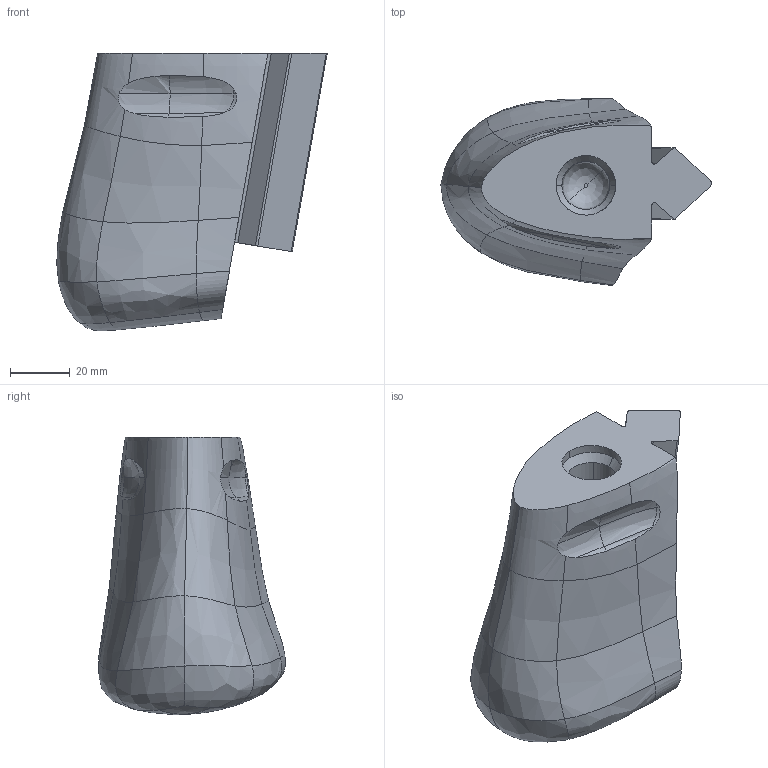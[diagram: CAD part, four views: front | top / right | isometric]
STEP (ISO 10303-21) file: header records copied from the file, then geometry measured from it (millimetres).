
FILE_DESCRIPTION(/* description */ (''),/* implementation_level */ '2;1');
FILE_NAME(/* name */ '40-sample-heel-13mm',/* time_stamp */ '2026-02-27T14:12:49-07:00',/* author */ (''),/* organization */ (''),/* preprocessor_version */ 'ST-DEVELOPER v19.2',/* originating_system */ 'Rhino 8.28',/* authorisation */ '');
FILE_SCHEMA (('AUTOMOTIVE_DESIGN'));
Length unit declared in the file: millimetre
Products named in the file (1): Document
Bounding box: 90.41 x 62.44 x 92.78 mm (x, y, z)
Volume: 208853.6 mm3; surface area: 26303.4 mm2
Topology: 1 solids, 1 shells, 67 faces, 165 edges, 101 vertices
Faces by surface type: bspline 55, plane 8, cylinder 4
Entity records: 6941 total; most frequent: CARTESIAN_POINT 5688, ORIENTED_EDGE 330, EDGE_CURVE 165, B_SPLINE_CURVE_WITH_KNOTS 139, VERTEX_POINT 101, EDGE_LOOP 68, ADVANCED_FACE 67, FACE_OUTER_BOUND 67
